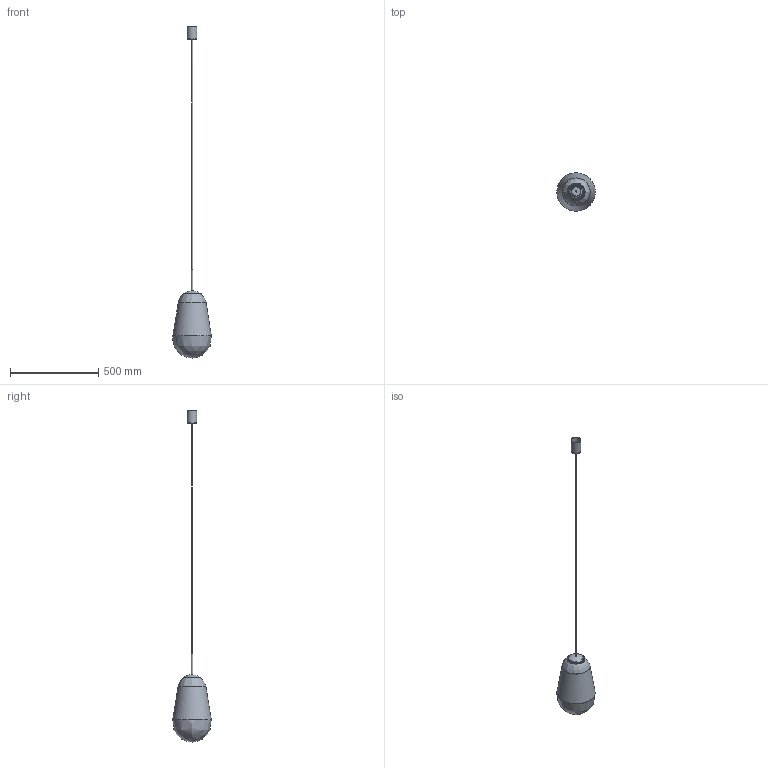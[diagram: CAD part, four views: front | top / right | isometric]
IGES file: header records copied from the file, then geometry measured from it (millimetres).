
Start section: SolidWorks IGES file using NURBS representation for surfaces
Global section: file name: Z:\Modele 3D_WWW\_KOLEKCJE_WWW\PEAR\8672\PEAR-M-8672.IGS; native system: SolidWorks 2021; preprocessor: SolidWorks 2021; author: gabriela.tworek; date: 211227.201124; units: millimetre
Bounding box: 218.5 x 217.24 x 1880.1 mm (x, y, z)
Surface area: 596888.1 mm2 (no closed solid volume)
Topology: 0 solids, 0 shells, 177 faces, 825 edges, 742 vertices
Faces by surface type: bspline 177
